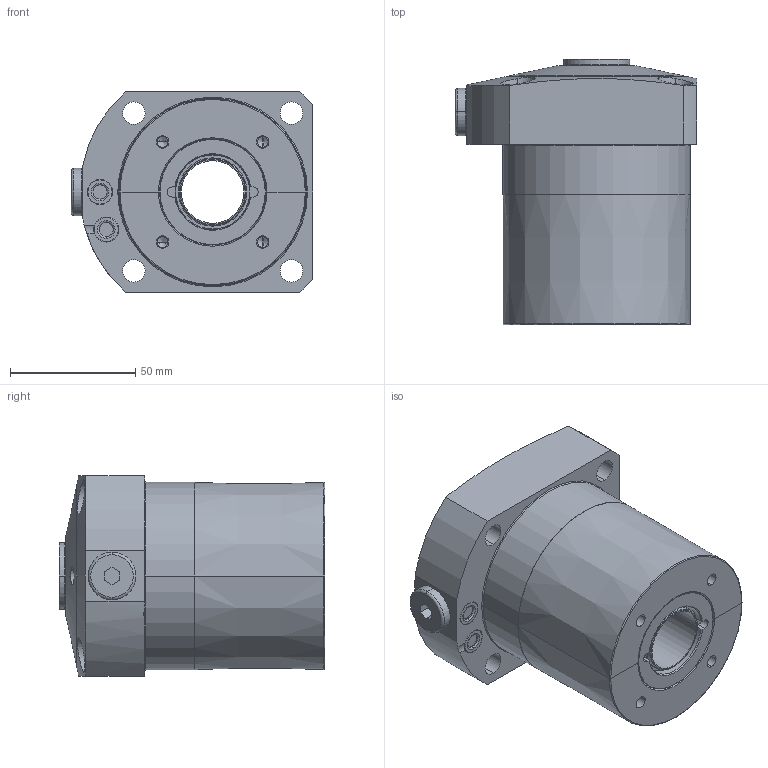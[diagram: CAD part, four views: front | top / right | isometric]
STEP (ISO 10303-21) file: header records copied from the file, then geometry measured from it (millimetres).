
FILE_DESCRIPTION(/* description */ (''),/* implementation_level */ '2;1');
FILE_NAME(/* name */ 'KFSS75-C.stp',/* time_stamp */ '2026-02-06T10:01:25+08:00',/* author */ (''),/* organization */ (''),/* preprocessor_version */ 'ST-DEVELOPER v16.7',/* originating_system */ 'SIEMENS PLM Software NX 12.0',/* authorisation */ '');
FILE_SCHEMA (('AUTOMOTIVE_DESIGN { 1 0 10303 214 3 1 1 1 }'));
Length unit declared in the file: millimetre
Products named in the file (4): KFSS75-C-03-P7; KFSS75-C-02; KFSS75-C-01; LC0753-C-D_step
Assembly tree (4 placements, depth 2):
  LC0753-C-D_step
    KFSS75-C-01
    KFSS75-C-02
    KFSS75-C-03-P7  x2
Bounding box: 96.5 x 106.1 x 80 mm (x, y, z)
Volume: 448526.3 mm3; surface area: 53262.2 mm2
Topology: 4 solids, 4 shells, 215 faces, 485 edges, 292 vertices
Faces by surface type: cylinder 79, plane 49, cone 45, torus 42
Entity records: 6043 total; most frequent: CARTESIAN_POINT 1189, DIRECTION 1084, ORIENTED_EDGE 898, AXIS2_PLACEMENT_3D 459, EDGE_CURVE 449, VERTEX_POINT 278, CIRCLE 251, EDGE_LOOP 241
